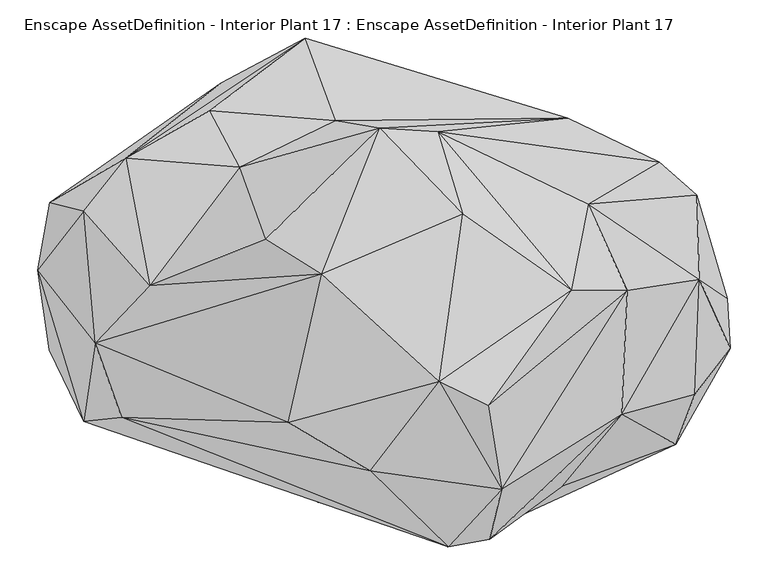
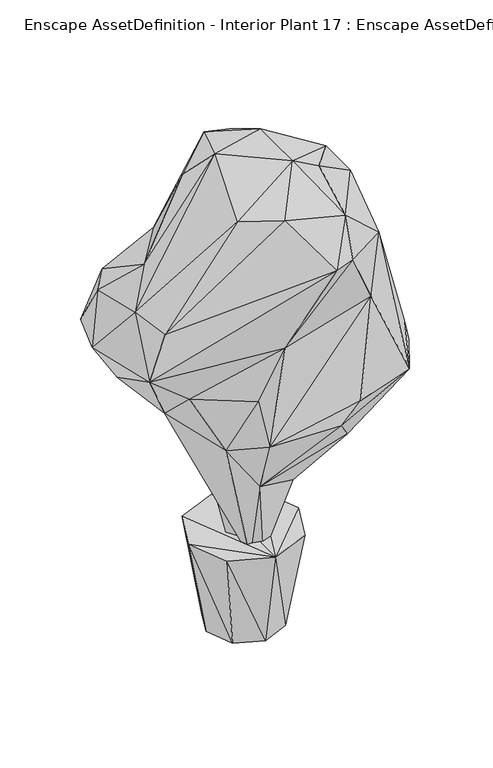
"""IFC4 building model written with IfcOpenShell, lengths in millimetres: geographic element geometry, Enscape AssetDefinition - Interior Plant 17 : Enscape AssetDefinition - Interior Plant 17."""

from ifc_helpers import new_model, si_unit, origin, place, context, project, spatial, faceted_brep, source, transform, mapped, element, save


def enscape_assetdefinition_interior_plant_17_enscape_d033fa1c(model_context):
    return source(origin(), model_context, "Body", "Brep", [
        faceted_brep([(-115.3586507, 0.4030058, -0.5270076), (0.1120016, -115.0666475, -0.5270076), (-81.5381631, -81.2461674, -0.5270076), (115.5826524, 0.4030058, -0.5270076), (81.7621723, -81.2461674, -0.5270076), (-119.316712, -119.0257072, 301.4983237), (0.1120016, -168.4954166, 301.4983237), (-168.7864214, 0.4030058, 301.4983237), (-119.316712, 119.8327169, 301.4983237), (0.1120016, 169.3024337, 301.4983237), (-81.5381631, 82.0531771, -0.5270076), (0.1120016, 115.8736646, -0.5270076), (81.7621723, 82.0531771, -0.5270076), (119.5417196, 119.8327169, 301.4983237), (169.0104306, 0.4030058, 301.4983237), (119.5417196, -119.0257072, 301.4983237)], [[[0, 1, 2]], [[3, 1, 0]], [[3, 4, 1]], [[5, 1, 6]], [[1, 5, 2]], [[4, 6, 1]], [[7, 2, 5]], [[2, 7, 0]], [[6, 7, 5]], [[8, 0, 7]], [[6, 8, 7]], [[9, 10, 8]], [[0, 8, 10]], [[6, 9, 8]], [[11, 0, 10]], [[10, 9, 11]], [[3, 0, 11]], [[3, 11, 12]], [[13, 11, 9]], [[11, 13, 12]], [[6, 13, 9]], [[14, 12, 13]], [[6, 14, 13]], [[12, 14, 3]], [[15, 3, 14]], [[6, 15, 14]], [[6, 4, 15]], [[3, 15, 4]]]),
        faceted_brep([(104.9395055, 91.1473036, 1497.6843596), (74.5250657, -129.6758503, 1537.4189615), (247.9095459, -9.2321327, 1452.4987936), (-80.483146, 12.111173, 1528.4099579), (-124.4177818, -183.8916391, 1443.1957006), (-16.7022385, -247.7785498, 1446.2586641), (156.502232, -271.7118859, 1418.2072878), (138.6999786, -161.0093117, 1518.5008049), (-4.3340623, 203.9039284, 1457.3338032), (72.6320446, 199.8948753, 1443.128705), (-62.1518865, 214.245066, 1174.9718189), (-188.2546842, 152.9321969, 1242.8138256), (243.6304837, 217.7271098, 942.9575205), (-154.3262005, 58.307834, 1459.7687721), (364.1071916, 159.6312821, 912.9291177), (270.4258859, 104.1904837, 1339.7532701), (356.8791151, 162.1783227, 810.0795746), (-102.1234617, 323.0796158, 930.3643703), (-227.9862612, 227.1532565, 1115.9750223), (-213.5170549, 263.4707689, 885.2656484), (-338.5318518, 164.8623645, 1154.0845633), (-63.8589114, 156.7382514, 679.3287396), (-393.876642, 94.7163627, 1148.4284401), (-306.7854047, -3.1280448, 1259.0590715), (-438.3242726, 106.3275188, 1059.784174), (-377.7334094, 128.6928356, 942.1615005), (-240.8334464, 159.8472893, 805.0365448), (-454.0934861, 17.1852466, 1029.6467543), (-378.4354031, -78.8501278, 1174.0127802), (-394.0916359, -182.0836067, 1015.8115625), (-352.9140651, 48.8367006, 872.6194501), (-439.5003021, -88.1772637, 990.0351763), (-256.2916577, -24.0013432, 770.7550526), (-85.0542113, 59.6898571, 524.8995423), (-17.6412538, -65.5739382, 248.1855452), (-29.1874185, 96.8423858, 532.7646136), (-47.8416868, -16.9952437, 247.6765364), (147.6311237, 85.6482312, 606.5186858), (43.34962, 46.7196666, 250.9286106), (9.5731374, -31.5714516, 197.5448281), (21.0623015, 19.1312749, 197.0318258), (133.0369115, -16.9692431, 484.4079614), (339.8578465, 89.9742916, 714.8682475), (413.525939, 116.2986606, 870.4804778), (406.0928226, -58.6208403, 710.9251618), (103.853479, -82.8091875, 465.446651), (453.5965025, -20.2522893, 773.5830545), (416.5949821, 5.0660726, 1018.2626247), (457.2205544, -86.2792358, 798.2504368), (190.0227219, -223.7602025, 669.6465611), (-28.1104017, -136.7709637, 521.8544602), (17.9952569, -75.4510835, 249.986589), (124.3057773, -305.3773642, 767.2899365), (385.9945238, -212.1740431, 804.933548), (410.8859003, -146.5380937, 906.8809748), (314.7705197, -173.2304841, 1247.7968931), (236.82338, -266.967833, 1124.5530844), (182.0155978, -305.8923781, 828.7118673), (-85.443221, -288.8261378, 760.8548403), (-29.838426, -271.0598707, 1051.954031), (141.1300153, -337.3898268, 1319.0199137), (-94.1883475, -241.8644577, 883.8456869), (-160.2272838, -183.471635, 712.3721838), (-248.2225448, -142.6440477, 885.7536316), (86.1692354, -347.5120068, 1309.0237379), (-343.5909152, -176.8185347, 1149.2093801), (322.1566081, -9.9861426, 1347.8983641)], [[[0, 1, 2]], [[0, 3, 1]], [[3, 4, 1]], [[1, 5, 6]], [[1, 4, 5]], [[2, 1, 7]], [[6, 7, 1]], [[8, 3, 0]], [[9, 8, 0]], [[9, 0, 2]], [[10, 11, 8]], [[10, 8, 12]], [[13, 3, 8]], [[12, 8, 9]], [[11, 13, 8]], [[12, 9, 14]], [[15, 14, 9]], [[15, 9, 2]], [[16, 12, 14]], [[16, 17, 12]], [[17, 10, 12]], [[17, 18, 10]], [[18, 11, 10]], [[19, 20, 17]], [[21, 17, 16]], [[17, 21, 19]], [[18, 17, 20]], [[18, 20, 11]], [[22, 23, 20]], [[19, 24, 20]], [[11, 20, 23]], [[24, 22, 20]], [[25, 24, 19]], [[26, 25, 19]], [[19, 21, 26]], [[24, 25, 27]], [[27, 22, 24]], [[22, 28, 23]], [[22, 27, 28]], [[29, 28, 27]], [[30, 31, 27]], [[31, 29, 27]], [[30, 27, 25]], [[32, 25, 26]], [[25, 32, 30]], [[32, 26, 33]], [[33, 26, 21]], [[34, 32, 33]], [[33, 21, 35]], [[36, 33, 35]], [[36, 34, 33]], [[21, 16, 35]], [[35, 16, 37]], [[38, 35, 37]], [[36, 35, 38]], [[39, 36, 40]], [[36, 39, 34]], [[40, 36, 38]], [[38, 37, 41]], [[38, 41, 40]], [[37, 16, 42]], [[37, 42, 41]], [[42, 16, 43]], [[16, 14, 43]], [[42, 44, 45]], [[42, 43, 46]], [[41, 42, 45]], [[42, 46, 44]], [[43, 47, 46]], [[43, 15, 47]], [[14, 15, 43]], [[46, 47, 48]], [[44, 46, 48]], [[45, 44, 49]], [[44, 48, 49]], [[45, 49, 50]], [[41, 45, 51]], [[45, 50, 51]], [[49, 52, 50]], [[49, 53, 52]], [[53, 49, 48]], [[53, 48, 54]], [[48, 47, 54]], [[53, 55, 56]], [[53, 54, 55]], [[53, 56, 57]], [[53, 57, 52]], [[50, 52, 58]], [[58, 52, 57]], [[57, 56, 58]], [[58, 56, 59]], [[55, 60, 56]], [[56, 60, 59]], [[61, 62, 58]], [[62, 50, 58]], [[58, 59, 61]], [[62, 32, 34]], [[63, 62, 61]], [[34, 50, 62]], [[62, 63, 32]], [[61, 59, 63]], [[63, 59, 29]], [[32, 63, 29]], [[30, 32, 31]], [[32, 29, 31]], [[59, 64, 29]], [[29, 64, 65]], [[65, 28, 29]], [[65, 64, 5]], [[64, 6, 5]], [[59, 60, 64]], [[60, 6, 64]], [[65, 4, 28]], [[65, 5, 4]], [[4, 3, 28]], [[28, 3, 23]], [[23, 3, 13]], [[23, 13, 11]], [[55, 6, 60]], [[66, 6, 55]], [[54, 47, 55]], [[47, 66, 55]], [[2, 7, 66]], [[15, 2, 66]], [[66, 7, 6]], [[47, 15, 66]], [[51, 50, 34]], [[34, 39, 51]], [[39, 41, 51]], [[40, 41, 39]]]),
    ])


if __name__ == "__main__":
    model = new_model("IFC4")
    model_context = context("Model", 3, world=origin())
    ifc_project = project(units=[si_unit("LENGTHUNIT", "METRE", prefix="MILLI")], contexts=[model_context])
    site = spatial("IfcSite", under=ifc_project)
    building = spatial("IfcBuilding", under=site)
    placement = place(None, origin())
    enscape_assetdefinition_interior_plant_17_enscape_shape = enscape_assetdefinition_interior_plant_17_enscape_d033fa1c(model_context)
    element("IfcGeographicElement", 1, ObjectType="Enscape AssetDefinition - Interior Plant 17 : Enscape AssetDefinition - Interior Plant 17", at=placement, inside=building, context=model_context, shape_type="MappedRepresentation", body=[
        mapped(enscape_assetdefinition_interior_plant_17_enscape_shape, transform((0.0, 0.0, 0.0), x_axis=(1.0, 0.0, 0.0), y_axis=(0.0, 1.0, 0.0), z_axis=(0.0, 0.0, 1.0))),
    ])
    save(model, "model.ifc")
